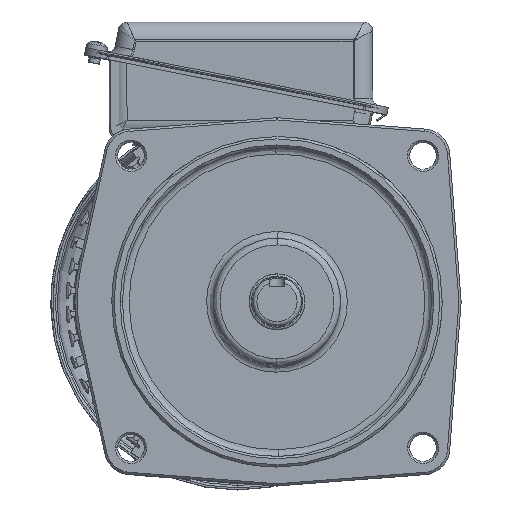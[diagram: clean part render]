
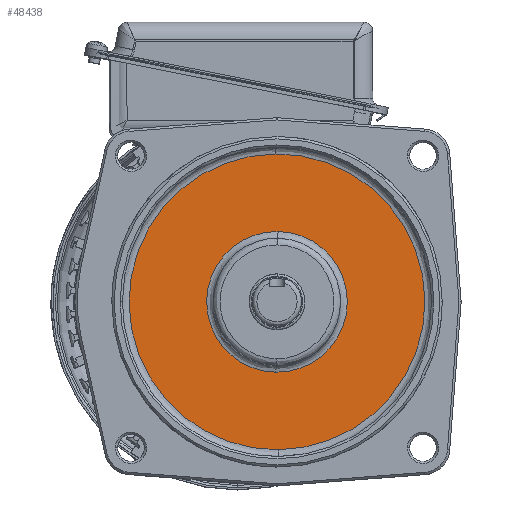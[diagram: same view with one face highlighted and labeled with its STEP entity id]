
A CAD part, top view. The second image highlights one B-rep face of the part: STEP entity #48438.
In plain terms, the highlighted planar face has unit normal (0, 0, 1) as drawn and (0, -1, 0) by its records, which use the part's own axes.
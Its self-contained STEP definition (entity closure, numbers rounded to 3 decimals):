
#2741 = DIRECTION ( 'NONE',  ( 1., 0., 0. ) ) ;
#2742 = DIRECTION ( 'NONE',  ( 0., -1., 0. ) ) ;
#2743 = CARTESIAN_POINT ( 'NONE',  ( 0., 1., 0. ) ) ;
#2744 = AXIS2_PLACEMENT_3D ( 'NONE', #2743, #2742, #2741 ) ;
#2745 = CIRCLE ( 'NONE', #2744, 31.5 ) ;
#2788 = CARTESIAN_POINT ( 'NONE',  ( 31.497, 1., -0.463 ) ) ;
#3121 = CARTESIAN_POINT ( 'NONE',  ( -31.497, 1., 0.463 ) ) ;
#5259 = CIRCLE ( 'NONE', #5264, 66.25 ) ;
#5261 = CARTESIAN_POINT ( 'NONE',  ( 66.248, 1., 0.569 ) ) ;
#5262 = DIRECTION ( 'NONE',  ( -1., 0., 0. ) ) ;
#5263 = DIRECTION ( 'NONE',  ( 0., 1., 0. ) ) ;
#5264 = AXIS2_PLACEMENT_3D ( 'NONE', #5266, #5263, #5262 ) ;
#5266 = CARTESIAN_POINT ( 'NONE',  ( 0., 1., 0. ) ) ;
#18779 = CARTESIAN_POINT ( 'NONE',  ( -66.248, 1., -0.569 ) ) ;
#26911 = DIRECTION ( 'NONE',  ( 1., 0., 0. ) ) ;
#26912 = DIRECTION ( 'NONE',  ( 0., -1., 0. ) ) ;
#26913 = CARTESIAN_POINT ( 'NONE',  ( 0., 1., 0. ) ) ;
#26914 = AXIS2_PLACEMENT_3D ( 'NONE', #26913, #26912, #26911 ) ;
#26915 = CIRCLE ( 'NONE', #26914, 31.5 ) ;
#27435 = DIRECTION ( 'NONE',  ( 0., 0., -1. ) ) ;
#27436 = DIRECTION ( 'NONE',  ( 0., -1., 0. ) ) ;
#27437 = CARTESIAN_POINT ( 'NONE',  ( 0., 1., 0. ) ) ;
#27438 = AXIS2_PLACEMENT_3D ( 'NONE', #27437, #27436, #27435 ) ;
#27439 = PLANE ( 'NONE',  #27438 ) ;
#27440 = FACE_OUTER_BOUND ( 'NONE', #48531, .T. ) ;
#27441 = FACE_BOUND ( 'NONE', #48467, .T. ) ;
#27664 = CARTESIAN_POINT ( 'NONE',  ( 0., 1., 0. ) ) ;
#27665 = AXIS2_PLACEMENT_3D ( 'NONE', #27664, #27683, #27682 ) ;
#27666 = CIRCLE ( 'NONE', #27665, 66.25 ) ;
#27682 = DIRECTION ( 'NONE',  ( -1., 0., 0. ) ) ;
#27683 = DIRECTION ( 'NONE',  ( 0., 1., 0. ) ) ;
#41150 = VERTEX_POINT ( 'NONE', #18779 ) ;
#44927 = EDGE_CURVE ( 'NONE', #45249, #44928, #2745, .T. ) ;
#44928 = VERTEX_POINT ( 'NONE', #2788 ) ;
#45249 = VERTEX_POINT ( 'NONE', #3121 ) ;
#46606 = EDGE_CURVE ( 'NONE', #46607, #41150, #5259, .T. ) ;
#46607 = VERTEX_POINT ( 'NONE', #5261 ) ;
#48272 = EDGE_CURVE ( 'NONE', #44928, #45249, #26915, .T. ) ;
#48438 = ADVANCED_FACE ( 'NONE', ( #27441, #27440 ), #27439, .T. ) ;
#48439 = ORIENTED_EDGE ( 'NONE', *, *, #48272, .F. ) ;
#48451 = ORIENTED_EDGE ( 'NONE', *, *, #48538, .F. ) ;
#48464 = ORIENTED_EDGE ( 'NONE', *, *, #46606, .F. ) ;
#48465 = ORIENTED_EDGE ( 'NONE', *, *, #44927, .F. ) ;
#48467 = EDGE_LOOP ( 'NONE', ( #48439, #48465 ) ) ;
#48531 = EDGE_LOOP ( 'NONE', ( #48464, #48451 ) ) ;
#48538 = EDGE_CURVE ( 'NONE', #41150, #46607, #27666, .T. ) ;
